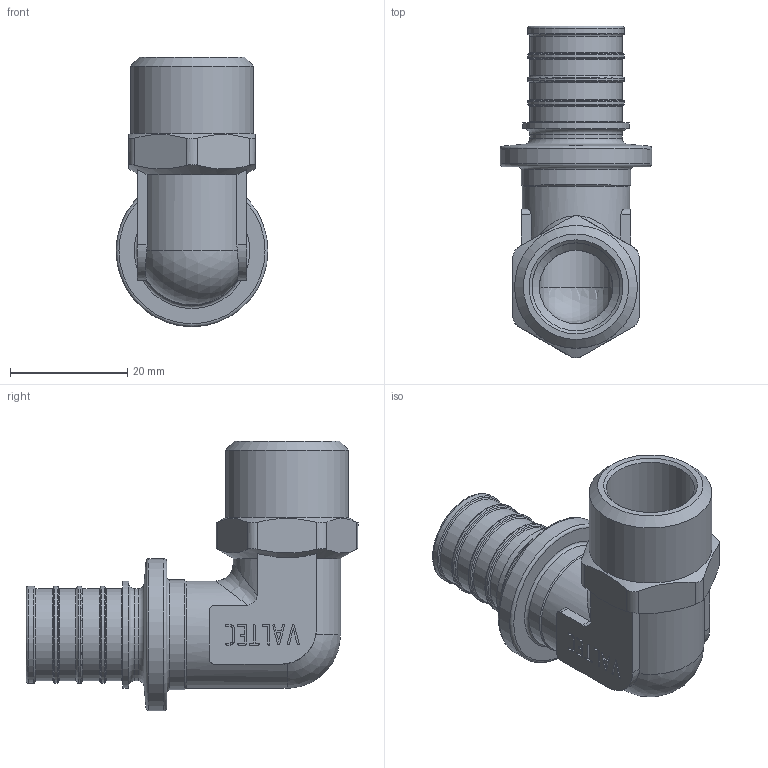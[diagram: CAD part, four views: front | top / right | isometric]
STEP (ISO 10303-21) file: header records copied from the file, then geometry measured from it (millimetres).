
FILE_DESCRIPTION(('STEP AP203'), '1');
FILE_NAME('ﾂﾐ.752212.006 - VTm.453.G.002004 ﾔ頸. 90 胙. 浯葢', '2024-01-24T06:29:38', ('IT'), ('VESTA'), 'C3D Converter', 'C3D Toolkit', '');
FILE_SCHEMA(('CONFIG_CONTROL_DESIGN'));
Length unit declared in the file: millimetre
Products named in the file (1): ВР.752212.006
Bounding box: 25.9 x 56.6 x 45.95 mm (x, y, z)
Volume: 11795.1 mm3; surface area: 8842 mm2
Topology: 1 solids, 1 shells, 324 faces, 880 edges, 573 vertices
Faces by surface type: extrusion 142, plane 117, cylinder 33, torus 21, cone 8, sphere 2, bspline 1
Full cylindrical faces by diameter (mm): 12.5 x2, 15 x1, 15.7 x5, 16.5 x4, 18.2 x1, 18.3 x1, 18.7 x1, 20.955 x1, 25.9 x1
Entity records: 11757 total; most frequent: CARTESIAN_POINT 4356, ORIENTED_EDGE 1666, DIRECTION 1073, EDGE_CURVE 833, VERTEX_POINT 574, VECTOR 571, B_SPLINE_CURVE_WITH_KNOTS 476, LINE 429
